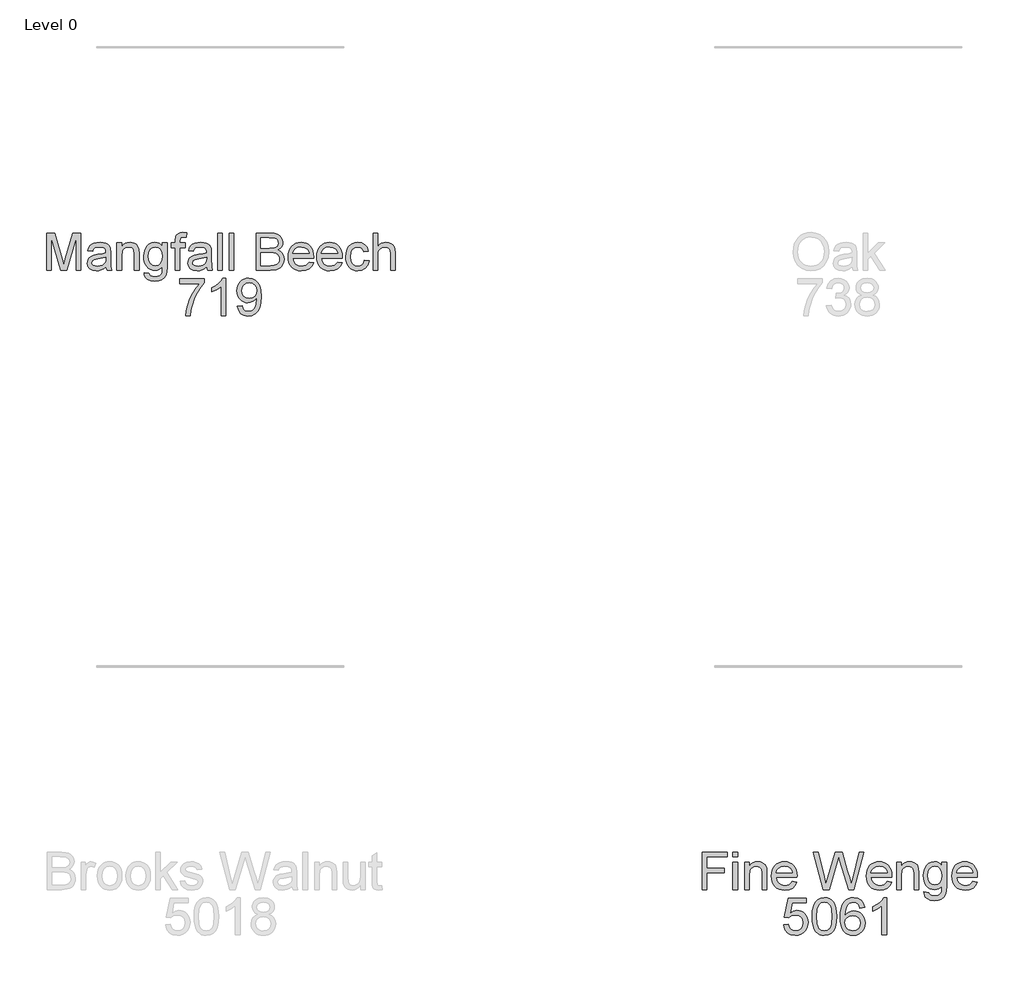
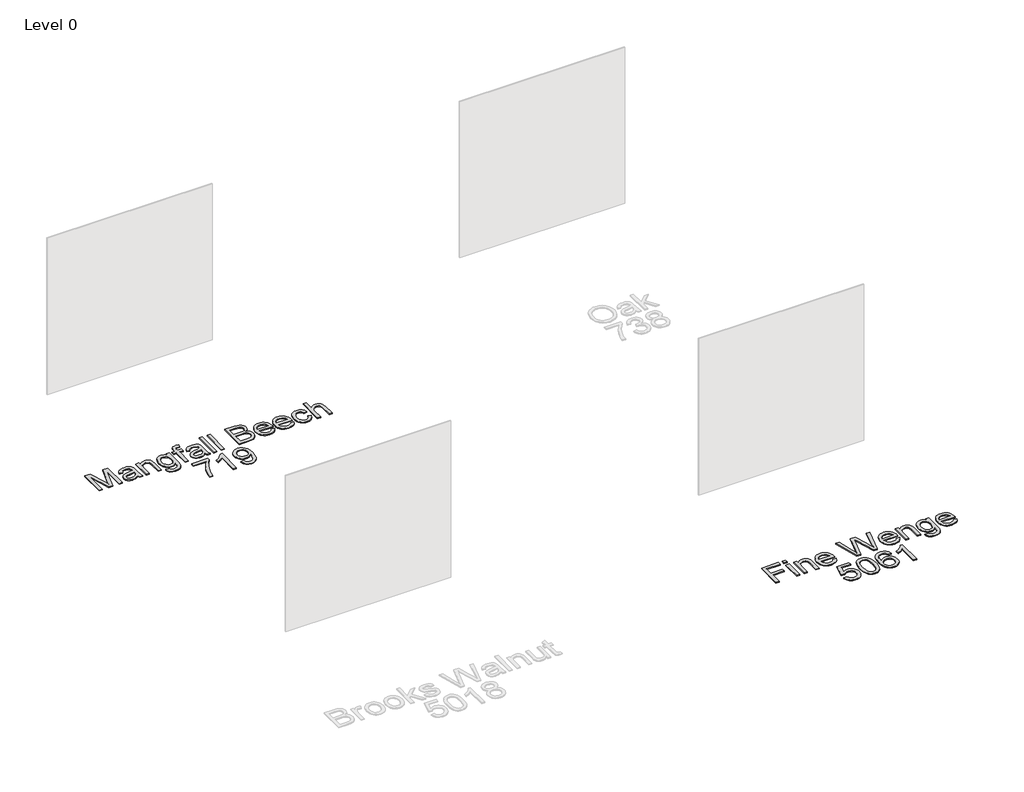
# One storey, part 11 of 16: 2 proxies.
"""IFC4 building model written with IfcOpenShell, lengths in millimetres."""

from ifc_helpers import new_model, si_unit, origin, origin_with_axes, place, context, project, spatial, polyline, outline, extrude, element, save

model = new_model("IFC4")

# Units and contexts
model_context = context("Model", 3, world=origin())
ifc_project = project(units=[si_unit("LENGTHUNIT", "METRE", prefix="MILLI")], contexts=[model_context])

# Site, building, storey
site = spatial("IfcSite", under=ifc_project)
building = spatial("IfcBuilding", under=site)
storey = spatial("IfcBuildingStorey", under=building, Name="Level 0", Elevation=0.0)

# Proxies
placement = place(None, origin())
element("IfcBuildingElementProxy", 1, Name="300mm Arial", ObjectType="300mm Arial", at=placement, inside=storey, context=model_context, shape_type="SweptSolid", body=[
    extrude(outline(polyline([(-856.2615835, -17002.860494), (-856.2615835, -16701.4915635), (-791.4407759, -16701.4915635), (-729.7837535, -16913.9066275), (-717.3493421, -16958.2731962), (-703.8848611, -16910.2278076), (-643.2579083, -16701.4915635), (-578.4371007, -16701.4915635), (-578.4371007, -17002.860494), (-616.108217, -17002.860494), (-616.108217, -16739.1626798), (-691.8183316, -17002.860494), (-742.8803526, -17002.860494), (-818.5904672, -16739.1626798), (-818.5904672, -17002.860494), (-856.2615835, -17002.860494)])), origin_with_axes(), (0.0, 0.0, 1.0), 10.0),
    extrude(outline(polyline([(-375.9548506, -16974.6071568), (-393.9534772, -16990.0398064), (-412.4855327, -17000.1381672), (-431.9740814, -17005.7115794), (-452.8421876, -17007.5693835), (-484.3236893, -17003.0996173), (-507.5462403, -16989.6903186), (-521.8660469, -16969.3280501), (-526.6393158, -16943.9993748), (-524.836694, -16928.3827841), (-519.4288287, -16914.2009331), (-511.0871045, -16902.0608273), (-500.4829059, -16892.5694718), (-474.1057669, -16880.2086368), (-441.5114221, -16874.5432541), (-402.9941772, -16868.5835657), (-376.1755798, -16861.5938078), (-375.9548506, -16853.2060983), (-378.5484186, -16836.3938912), (-386.3291228, -16825.3942195), (-403.7299412, -16817.2272392), (-427.9733647, -16814.5049125), (-450.4141664, -16816.3167313), (-466.0859394, -16821.7521878), (-476.7729114, -16831.8045633), (-484.25931, -16847.4671392), (-521.9304263, -16842.7582497), (-515.3913238, -16822.156858), (-505.6332539, -16805.9700502), (-491.7457086, -16793.590821), (-472.8181799, -16784.4121652), (-449.6692054, -16778.7283884), (-423.1173224, -16776.8337961), (-397.6506912, -16778.5076592), (-377.4631668, -16783.5292485), (-362.2420492, -16791.0800264), (-351.6746389, -16800.3414556), (-344.6664869, -16811.7917827), (-340.1231442, -16825.9092543), (-338.2837343, -16858.8714811), (-338.2837343, -16905.7396473), (-336.3707479, -16971.1858542), (-328.8659552, -17002.860494), (-366.5370715, -17002.860494), (-375.9548506, -16974.6071568)]), holes=[polyline([(-375.9548506, -16899.2649241), (-436.7289562, -16910.8164188), (-469.13936, -16916.9232599), (-483.8178516, -16926.8560738), (-488.9681995, -16941.3506244), (-486.1630993, -16952.5526311), (-477.7477986, -16961.7312869), (-463.9062386, -16967.8565221), (-444.8223601, -16969.8982672), (-424.5888503, -16967.64499), (-406.7097854, -16960.8851583), (-392.2152348, -16950.9247533), (-382.1352681, -16939.069756), (-377.6655019, -16926.8560738), (-376.1755798, -16909.933502), (-375.9548506, -16899.2649241)])]), origin_with_axes(), (0.0, 0.0, 1.0), 10.0),
    extrude(outline(polyline([(-286.4859493, -17002.860494), (-286.4859493, -16781.5426857), (-248.814833, -16781.5426857), (-248.814833, -16812.4447733), (-235.7274311, -16796.8649708), (-220.0096728, -16785.7365404), (-201.6615583, -16779.0594822), (-180.6830875, -16776.8337961), (-162.1142438, -16778.6272209), (-145.1088986, -16784.0074951), (-130.9270477, -16792.303234), (-120.8286869, -16802.8430532), (-109.5347097, -16830.5445674), (-107.5481469, -16866.964885), (-107.5481469, -17002.860494), (-145.2192632, -17002.860494), (-145.2192632, -16872.0416565), (-149.5602707, -16838.7115477), (-155.5659443, -16828.7879309), (-164.9009499, -16821.0900002), (-176.8663118, -16816.1511844), (-190.7630542, -16814.5049125), (-212.8267769, -16818.2021265), (-231.6347439, -16829.2937687), (-239.1510329, -16838.3482643), (-244.5198107, -16850.7228949), (-248.814833, -16885.4325611), (-248.814833, -17002.860494), (-286.4859493, -17002.860494)])), origin_with_axes(), (0.0, 0.0, 1.0), 10.0),
    extrude(outline(polyline([(-65.1681411, -17021.6960521), (-27.4970247, -17026.4049417), (-23.3399582, -17038.1771655), (-15.2833425, -17046.2705694), (0.5539774, -17052.5613515), (21.2841278, -17054.6582789), (43.3938357, -17052.28544), (59.8381609, -17045.1669234), (71.2425028, -17033.7625816), (78.2322607, -17018.532267), (80.8074346, -16974.6071568), (68.2718556, -16986.9679918), (54.2831428, -16995.7971597), (38.841296, -17001.0946604), (21.9463154, -17002.860494), (1.2920406, -17000.8049533), (-16.8928262, -16994.6383314), (-32.6082852, -16984.3606281), (-45.8543363, -16969.9718436), (-56.3642651, -16952.708981), (-63.871357, -16933.8090435), (-68.3756122, -16913.2720311), (-69.8770306, -16891.0979438), (-67.182295, -16860.6832999), (-59.0980881, -16832.7150712), (-45.9095186, -16809.0142737), (-27.9016949, -16791.4019232), (-5.6908195, -16780.4758279), (20.1069054, -16776.8337961), (37.7238545, -16778.8939353), (53.7129257, -16785.0743528), (68.0741191, -16795.3750487), (80.8074346, -16809.7960229), (80.8074346, -16781.5426857), (118.4785509, -16781.5426857), (118.4785509, -16972.620594), (115.903377, -17016.7388422), (108.1778551, -17045.7923228), (94.8697239, -17065.0601423), (75.5467221, -17079.8214074), (50.631914, -17089.2023982), (20.5483638, -17092.3293952), (-14.5015933, -17087.9240083), (-42.10194, -17074.7078476), (-52.4969056, -17064.7865301), (-59.806261, -17052.644125), (-64.0300061, -17038.2806323), (-65.1681411, -17021.6960521)]), holes=[polyline([(-32.2059143, -16888.5227699), (-28.1868035, -16923.0760863), (-16.1294711, -16946.8320661), (1.9979142, -16960.6000498), (24.2271838, -16965.1893777), (46.2909064, -16960.6276409), (64.5102622, -16946.9424307), (76.7331415, -16923.4899535), (80.8074346, -16889.6264159), (76.6135799, -16856.9676917), (64.0320157, -16833.4508352), (45.5459454, -16819.2413931), (23.6385726, -16814.5049125), (2.1266729, -16819.1678167), (-15.9087419, -16833.1565296), (-28.1316212, -16856.3238983), (-32.2059143, -16888.5227699)])]), origin_with_axes(), (0.0, 0.0, 1.0), 10.0),
    extrude(outline(polyline([(184.4030045, -17002.860494), (184.4030045, -16819.213802), (151.4407777, -16819.213802), (151.4407777, -16781.5426857), (184.4030045, -16781.5426857), (184.4030045, -16759.2490368), (188.37613, -16727.8319144), (195.9544991, -16715.3055325), (207.6531466, -16705.3911127), (224.0238954, -16698.9347837), (245.6185685, -16696.782674), (279.9787468, -16700.9029523), (274.4605169, -16736.2196239), (252.7554792, -16734.4537903), (238.4356725, -16736.0172888), (229.0270905, -16740.7077842), (223.8123632, -16749.6657108), (222.0741208, -16764.0315027), (222.0741208, -16781.5426857), (264.4541266, -16781.5426857), (264.4541266, -16819.213802), (222.0741208, -16819.213802), (222.0741208, -17002.860494), (184.4030045, -17002.860494)])), origin_with_axes(), (0.0, 0.0, 1.0), 10.0),
    extrude(outline(polyline([(438.6830395, -16974.6071568), (420.6844129, -16990.0398064), (402.1523574, -17000.1381672), (382.6638087, -17005.7115794), (361.7957026, -17007.5693835), (330.3142008, -17003.0996173), (307.0916499, -16989.6903186), (292.7718432, -16969.3280501), (287.9985743, -16943.9993748), (289.8011961, -16928.3827841), (295.2090614, -16914.2009331), (303.5507857, -16902.0608273), (314.1549842, -16892.5694718), (340.5321232, -16880.2086368), (373.126468, -16874.5432541), (411.6437129, -16868.5835657), (438.4623103, -16861.5938078), (438.6830395, -16853.2060983), (436.0894715, -16836.3938912), (428.3087673, -16825.3942195), (410.9079489, -16817.2272392), (386.6645254, -16814.5049125), (364.2237237, -16816.3167313), (348.5519507, -16821.7521878), (337.8649788, -16831.8045633), (330.3785802, -16847.4671392), (292.7074639, -16842.7582497), (299.2465663, -16822.156858), (309.0046362, -16805.9700502), (322.8921816, -16793.590821), (341.8197102, -16784.4121652), (364.9686848, -16778.7283884), (391.5205678, -16776.8337961), (416.9871989, -16778.5076592), (437.1747234, -16783.5292485), (452.3958409, -16791.0800264), (462.9632512, -16800.3414556), (469.9714032, -16811.7917827), (474.5147459, -16825.9092543), (476.3541558, -16858.8714811), (476.3541558, -16905.7396473), (478.2671422, -16971.1858542), (485.7719349, -17002.860494), (448.1008186, -17002.860494), (438.6830395, -16974.6071568)]), holes=[polyline([(438.6830395, -16899.2649241), (377.9089339, -16910.8164188), (345.4985302, -16916.9232599), (330.8200386, -16926.8560738), (325.6696906, -16941.3506244), (328.4747908, -16952.5526311), (336.8900915, -16961.7312869), (350.7316515, -16967.8565221), (369.81553, -16969.8982672), (390.0490398, -16967.64499), (407.9281047, -16960.8851583), (422.4226554, -16950.9247533), (432.502622, -16939.069756), (436.9723883, -16926.8560738), (438.4623103, -16909.933502), (438.6830395, -16899.2649241)])]), origin_with_axes(), (0.0, 0.0, 1.0), 10.0),
    extrude(outline(polyline([(528.1519408, -17002.860494), (528.1519408, -16701.4915635), (565.8230571, -16701.4915635), (565.8230571, -17002.860494), (528.1519408, -17002.860494)])), origin_with_axes(), (0.0, 0.0, 1.0), 10.0),
    extrude(outline(polyline([(622.3297315, -17002.860494), (622.3297315, -16701.4915635), (660.0008478, -16701.4915635), (660.0008478, -17002.860494), (622.3297315, -17002.860494)])), origin_with_axes(), (0.0, 0.0, 1.0), 10.0),
    extrude(outline(polyline([(838.9386503, -17002.860494), (838.9386503, -16701.4915635), (953.938562, -16701.4915635), (985.5672165, -16703.7080526), (1010.2612954, -16710.3575196), (1029.1888241, -16721.6055116), (1043.5178278, -16737.6175755), (1052.5401337, -16756.4531336), (1055.5475691, -16776.1716086), (1053.0183803, -16794.317388), (1045.4308142, -16811.3779155), (1032.7296883, -16826.3047274), (1014.8598204, -16838.0493601), (1036.2061732, -16849.1961846), (1051.9791137, -16866.1555446), (1061.7187895, -16887.8054), (1064.9653481, -16913.0237108), (1062.7488591, -16934.0389697), (1056.099392, -16953.5275184), (1046.1757752, -16970.1006023), (1034.1368369, -16982.3694669), (1019.393966, -16991.253817), (1001.3585512, -16997.6733578), (953.0556452, -17002.860494), (838.9386503, -17002.860494)]), holes=[polyline([(876.6097666, -16823.9226915), (945.4036997, -16823.9226915), (985.5764136, -16820.68533), (999.6387028, -16815.1027207), (1009.7462607, -16806.7426024), (1015.8439047, -16795.7337336), (1017.8764527, -16782.2048733), (1015.9818605, -16769.071486), (1010.2980836, -16757.630356), (1001.0826397, -16748.7000206), (988.5930459, -16743.0990172), (940.1797754, -16739.1626798), (876.6097666, -16739.1626798), (876.6097666, -16823.9226915)]), polyline([(876.6097666, -16965.1893777), (953.8649856, -16965.1893777), (981.8240172, -16963.7178497), (1005.4788295, -16955.5140812), (1021.1506025, -16938.7754504), (1025.7583245, -16926.9480443), (1027.2942318, -16913.3915928), (1025.49161, -16897.6462434), (1020.0837447, -16884.1081859), (1010.6383745, -16873.5223815), (996.723238, -16866.6337912), (977.0139601, -16862.8538037), (950.1861656, -16861.5938078), (876.6097666, -16861.5938078), (876.6097666, -16965.1893777)])]), origin_with_axes(), (0.0, 0.0, 1.0), 10.0),
    extrude(outline(polyline([(1267.0061399, -16936.9360404), (1303.9414922, -16941.64493), (1290.633361, -16969.4752029), (1269.3973729, -16990.2789297), (1240.7117743, -17003.2467701), (1205.0548119, -17007.5693835), (1181.6805096, -17005.7046817), (1160.8537902, -17000.1105761), (1142.5746535, -16990.7870668), (1126.8430997, -16977.7341537), (1114.1925576, -16961.3151204), (1105.1564561, -16941.8932503), (1099.7347952, -16919.4685435), (1097.9275749, -16894.0409998), (1099.7531893, -16867.7512327), (1105.2300325, -16844.5792656), (1114.3581045, -16824.5250983), (1127.1374053, -16807.5887309), (1142.8275724, -16794.133447), (1160.6882433, -16784.5225298), (1180.7194179, -16778.7559796), (1202.9210963, -16776.8337961), (1224.4077041, -16778.751381), (1243.8387712, -16784.5041357), (1261.2142977, -16794.0920602), (1276.5342836, -16807.5151545), (1289.0399721, -16824.4147337), (1297.9726068, -16844.4321128), (1303.3321876, -16867.5672917), (1305.1187146, -16893.8202706), (1304.8979854, -16903.9738137), (1135.5986912, -16903.9738137), (1142.1193996, -16932.1719686), (1157.2669407, -16952.902119), (1179.1283283, -16965.6492302), (1205.7905759, -16969.8982672), (1225.8401446, -16967.9300985), (1242.7259282, -16962.0255925), (1256.4479266, -16951.8168672), (1267.0061399, -16936.9360404)]), holes=[polyline([(1135.5986912, -16866.3026974), (1267.4475983, -16866.3026974), (1262.3524326, -16846.4002814), (1252.3644365, -16832.1632482), (1230.4018814, -16818.9194964), (1202.7739435, -16814.5049125), (1177.3808888, -16818.0273826), (1156.3840239, -16828.5947929), (1141.7883058, -16845.0667092), (1135.5986912, -16866.3026974)])]), origin_with_axes(), (0.0, 0.0, 1.0), 10.0),
    extrude(outline(polyline([(1497.7417273, -16936.9360404), (1534.6770796, -16941.64493), (1521.3689484, -16969.4752029), (1500.1329602, -16990.2789297), (1471.4473617, -17003.2467701), (1435.7903993, -17007.5693835), (1412.416097, -17005.7046817), (1391.5893776, -17000.1105761), (1373.3102409, -16990.7870668), (1357.5786871, -16977.7341537), (1344.928145, -16961.3151204), (1335.8920435, -16941.8932503), (1330.4703826, -16919.4685435), (1328.6631623, -16894.0409998), (1330.4887767, -16867.7512327), (1335.9656199, -16844.5792656), (1345.0936919, -16824.5250983), (1357.8729927, -16807.5887309), (1373.5631598, -16794.133447), (1391.4238307, -16784.5225298), (1411.4550053, -16778.7559796), (1433.6566837, -16776.8337961), (1455.1432915, -16778.751381), (1474.5743586, -16784.5041357), (1491.9498851, -16794.0920602), (1507.2698709, -16807.5151545), (1519.7755595, -16824.4147337), (1528.7081942, -16844.4321128), (1534.067775, -16867.5672917), (1535.854302, -16893.8202706), (1535.6335728, -16903.9738137), (1366.3342786, -16903.9738137), (1372.8549869, -16932.1719686), (1388.0025281, -16952.902119), (1409.8639157, -16965.6492302), (1436.5261633, -16969.8982672), (1456.575732, -16967.9300985), (1473.4615156, -16962.0255925), (1487.183514, -16951.8168672), (1497.7417273, -16936.9360404)]), holes=[polyline([(1366.3342786, -16866.3026974), (1498.1831857, -16866.3026974), (1493.08802, -16846.4002814), (1483.1000239, -16832.1632482), (1461.1374687, -16818.9194964), (1433.5095309, -16814.5049125), (1408.1164762, -16818.0273826), (1387.1196113, -16828.5947929), (1372.5238932, -16845.0667092), (1366.3342786, -16866.3026974)])]), origin_with_axes(), (0.0, 0.0, 1.0), 10.0),
    extrude(outline(polyline([(1714.7921044, -16922.8093718), (1752.4632207, -16927.5182614), (1741.9601898, -16961.0231141), (1722.2233207, -16986.3425924), (1695.1104177, -17002.2626857), (1662.4792847, -17007.5693835), (1641.3513619, -17005.7184772), (1622.4077384, -17000.1657584), (1605.6484142, -16990.9112269), (1591.0733894, -16977.9548829), (1579.2758737, -16961.5404481), (1570.8490767, -16941.9116444), (1565.7929986, -16919.0684718), (1564.1076392, -16893.0109302), (1566.9863158, -16859.4876834), (1575.6223456, -16830.4342028), (1590.1536844, -16806.9725286), (1610.718288, -16790.2247008), (1635.3203964, -16780.1815223), (1661.9642499, -16776.8337961), (1693.7952395, -16781.4323211), (1719.2434766, -16795.2278959), (1737.4996206, -16817.4847566), (1747.7543312, -16847.4671392), (1710.0832149, -16852.1760288), (1703.2498068, -16835.7409006), (1692.6088201, -16823.9594797), (1678.7488659, -16816.8685543), (1662.2585555, -16814.5049125), (1637.9139645, -16819.1586197), (1618.5909627, -16833.1197414), (1605.9818073, -16857.1424357), (1601.7787555, -16891.9808606), (1605.8898368, -16927.2883351), (1618.2230807, -16951.3938029), (1637.1965946, -16965.2721511), (1661.2284859, -16969.8982672), (1680.7354287, -16967.0103936), (1696.7290984, -16958.3467726), (1708.3633665, -16943.6866751), (1714.7921044, -16922.8093718)])), origin_with_axes(), (0.0, 0.0, 1.0), 10.0),
    extrude(outline(polyline([(1785.4254475, -17002.860494), (1785.4254475, -16701.4915635), (1823.0965638, -16701.4915635), (1823.0965638, -16812.2976205), (1836.9335253, -16796.7821973), (1852.4719411, -16785.6997522), (1869.7118111, -16779.0502852), (1888.6531353, -16776.8337961), (1911.4066367, -16779.2526203), (1930.9595648, -16786.5090926), (1946.3554263, -16798.0329961), (1956.637728, -16813.2541137), (1962.4318695, -16834.1682051), (1964.3632499, -16862.7710302), (1964.3632499, -17002.860494), (1926.6921336, -17002.860494), (1926.6921336, -16866.6705794), (1923.6938954, -16843.0893435), (1914.6991806, -16826.9393239), (1900.20463, -16817.6135153), (1880.7068842, -16814.5049125), (1864.7867909, -16816.6018398), (1849.8415848, -16822.8926219), (1837.4623557, -16832.7702535), (1829.2401931, -16845.6277292), (1824.6324711, -16862.7158479), (1823.0965638, -16885.2854083), (1823.0965638, -17002.860494), (1785.4254475, -17002.860494)])), origin_with_axes(), (0.0, 0.0, 1.0), 10.0),
    extrude(outline(polyline([(222.0741208, -17109.7960229), (222.0741208, -17072.1249066), (419.8474814, -17072.1249066), (419.8474814, -17102.5855358), (391.6585235, -17138.2608923), (363.7454771, -17183.6299393), (339.1249746, -17234.5540045), (320.8136483, -17286.8944154), (311.8373276, -17326.0554538), (306.8341325, -17368.7849475), (269.1630162, -17368.7849475), (273.2373093, -17329.9550029), (284.1358134, -17283.8042066), (301.5642229, -17234.8850983), (325.2282322, -17187.7502177), (352.8561701, -17145.1402856), (382.1763651, -17109.7960229), (222.0741208, -17109.7960229)])), origin_with_axes(), (0.0, 0.0, 1.0), 10.0),
    extrude(outline(polyline([(594.0763943, -17368.7849475), (556.405278, -17368.7849475), (556.405278, -17133.9290818), (520.7207245, -17159.3497277), (481.0630454, -17178.3692268), (481.0630454, -17142.7582497), (510.6499548, -17126.6634124), (536.2821329, -17107.5151545), (556.4880514, -17087.1528861), (569.7961826, -17067.4160171), (594.0763943, -17067.4160171), (594.0763943, -17368.7849475)])), origin_with_axes(), (0.0, 0.0, 1.0), 10.0),
    extrude(outline(polyline([(688.2541851, -17293.4427149), (725.9253014, -17288.7338254), (732.3632363, -17310.1169663), (742.8478732, -17324.6758963), (757.1216946, -17333.0360146), (774.9271831, -17335.8227207), (790.9024588, -17334.029296), (805.4246005, -17328.6490218), (817.49113, -17320.2705094), (826.0995687, -17309.4823699), (838.4236155, -17276.7408723), (843.868269, -17233.0364913), (843.6475398, -17225.6788514), (830.5969261, -17241.6081418), (813.5180044, -17254.2264942), (793.6431796, -17262.4486568), (772.2048564, -17265.1893777), (754.3096966, -17263.5155146), (737.8538751, -17258.4939254), (722.8373919, -17250.12461), (709.260247, -17238.4075684), (698.0099557, -17223.9544045), (689.9740334, -17207.3767221), (685.15248, -17188.6745212), (683.5452955, -17167.8478018), (685.2306549, -17146.326705), (690.2867331, -17127.0129003), (698.71353, -17109.9063875), (710.5110458, -17095.0071667), (724.8469473, -17082.9360387), (740.8889015, -17074.3138045), (758.6369085, -17069.1404639), (778.0909683, -17067.4160171), (806.1879557, -17071.3523544), (831.7649514, -17083.1613665), (853.1572894, -17102.254442), (868.7003037, -17128.0429699), (878.164068, -17163.6907352), (881.3186561, -17212.3615232), (878.1732651, -17263.96617), (868.7370919, -17303.8537754), (853.0929101, -17333.8269609), (831.323493, -17355.6883485), (804.3669398, -17369.0424649), (773.1613496, -17373.4938371), (740.9532809, -17368.2423216), (715.2567235, -17352.4877751), (697.2856881, -17327.2234791), (688.2541851, -17293.4427149)]), holes=[polyline([(843.6475398, -17166.964885), (839.5824438, -17141.4338745), (827.3871556, -17121.788976), (808.459627, -17109.262594), (784.1978094, -17105.0871334), (759.0346809, -17109.5844908), (738.8747476, -17123.0765629), (725.6309958, -17143.7239399), (721.2164118, -17169.6872117), (725.3918725, -17192.964945), (737.9182544, -17211.4418182), (757.5815471, -17223.4991506), (783.1677398, -17227.5182614), (807.2364194, -17223.4991506), (826.6146035, -17211.4418182), (839.3893057, -17192.2843633), (843.6475398, -17166.964885)])]), origin_with_axes(), (0.0, 0.0, 1.0), 10.0),
])
element("IfcBuildingElementProxy", 2, Name="300mm Arial", ObjectType="300mm Arial", at=placement, inside=storey, context=model_context, shape_type="SweptSolid", body=[
    extrude(outline(polyline([(4447.4617917, -22012.860494), (4447.4617917, -21711.4915635), (4649.9440419, -21711.4915635), (4649.9440419, -21749.1626798), (4485.132908, -21749.1626798), (4485.132908, -21838.6315811), (4626.3995942, -21838.6315811), (4626.3995942, -21876.3026974), (4485.132908, -21876.3026974), (4485.132908, -22012.860494), (4447.4617917, -22012.860494)])), origin_with_axes(), (0.0, 0.0, 1.0), 10.0),
    extrude(outline(polyline([(4697.0329373, -22012.860494), (4697.0329373, -21791.5426857), (4734.7040536, -21791.5426857), (4734.7040536, -22012.860494), (4697.0329373, -22012.860494)])), origin_with_axes(), (0.0, 0.0, 1.0), 10.0),
    extrude(outline(polyline([(4697.0329373, -21749.1626798), (4697.0329373, -21711.4915635), (4734.7040536, -21711.4915635), (4734.7040536, -21749.1626798), (4697.0329373, -21749.1626798)])), origin_with_axes(), (0.0, 0.0, 1.0), 10.0),
    extrude(outline(polyline([(4791.210728, -22012.860494), (4791.210728, -21791.5426857), (4828.8818443, -21791.5426857), (4828.8818443, -21822.4447733), (4841.9692463, -21806.8649708), (4857.6870046, -21795.7365404), (4876.0351191, -21789.0594822), (4897.0135898, -21786.8337961), (4915.5824336, -21788.6272209), (4932.5877788, -21794.0074951), (4946.7696297, -21802.303234), (4956.8679905, -21812.8430532), (4968.1619677, -21840.5445674), (4970.1485305, -21876.964885), (4970.1485305, -22012.860494), (4932.4774142, -22012.860494), (4932.4774142, -21882.0416565), (4928.1364066, -21848.7115477), (4922.1307331, -21838.7879309), (4912.7957274, -21831.0900002), (4900.8303655, -21826.1511844), (4886.9336232, -21824.5049125), (4864.8699005, -21828.2021265), (4846.0619335, -21839.2937687), (4838.5456445, -21848.3482643), (4833.1768666, -21860.7228949), (4828.8818443, -21895.4325611), (4828.8818443, -22012.860494), (4791.210728, -22012.860494)])), origin_with_axes(), (0.0, 0.0, 1.0), 10.0),
    extrude(outline(polyline([(5176.8982118, -21946.9360404), (5213.8335641, -21951.64493), (5200.5254329, -21979.4752029), (5179.2894447, -22000.2789297), (5150.6038462, -22013.2467701), (5114.9468838, -22017.5693835), (5091.5725815, -22015.7046817), (5070.7458621, -22010.1105761), (5052.4667254, -22000.7870668), (5036.7351716, -21987.7341537), (5024.0846295, -21971.3151204), (5015.048528, -21951.8932503), (5009.6268671, -21929.4685435), (5007.8196468, -21904.0409998), (5009.6452612, -21877.7512327), (5015.1221044, -21854.5792656), (5024.2501764, -21834.5250983), (5037.0294772, -21817.5887309), (5052.7196443, -21804.133447), (5070.5803152, -21794.5225298), (5090.6114898, -21788.7559796), (5112.8131682, -21786.8337961), (5134.299776, -21788.751381), (5153.7308431, -21794.5041357), (5171.1063696, -21804.0920602), (5186.4263555, -21817.5151545), (5198.932044, -21834.4147337), (5207.8646787, -21854.4321128), (5213.2242595, -21877.5672917), (5215.0107865, -21903.8202706), (5214.7900573, -21913.9738137), (5045.4907631, -21913.9738137), (5052.0114715, -21942.1719686), (5067.1590126, -21962.902119), (5089.0204002, -21975.6492302), (5115.6826478, -21979.8982672), (5135.7322165, -21977.9300985), (5152.6180001, -21972.0255925), (5166.3399985, -21961.8168672), (5176.8982118, -21946.9360404)]), holes=[polyline([(5045.4907631, -21876.3026974), (5177.3396702, -21876.3026974), (5172.2445045, -21856.4002814), (5162.2565084, -21842.1632482), (5140.2939533, -21828.9194964), (5112.6660154, -21824.5049125), (5087.2729607, -21828.0273826), (5066.2760958, -21838.5947929), (5051.6803777, -21855.0667092), (5045.4907631, -21876.3026974)])]), origin_with_axes(), (0.0, 0.0, 1.0), 10.0),
    extrude(outline(polyline([(5429.0445313, -22012.860494), (5346.8596935, -21711.4915635), (5385.7080322, -21711.4915635), (5433.3855388, -21909.5592297), (5448.1008186, -21970.7012173), (5463.846168, -21916.622564), (5523.590204, -21711.4915635), (5579.5818437, -21711.4915635), (5622.9919191, -21860.189466), (5641.588354, -21915.3717653), (5655.2919583, -21970.7012173), (5669.5657797, -21911.3250633), (5717.6847447, -21711.4915635), (5756.5330834, -21711.4915635), (5674.2746693, -22012.860494), (5634.028379, -22012.860494), (5561.7763551, -21780.359073), (5551.6963885, -21747.9118811), (5540.365623, -21786.9809489), (5474.5147459, -22012.860494), (5429.0445313, -22012.860494)])), origin_with_axes(), (0.0, 0.0, 1.0), 10.0),
    extrude(outline(polyline([(5944.4472065, -21946.9360404), (5981.3825588, -21951.64493), (5968.0744277, -21979.4752029), (5946.8384395, -22000.2789297), (5918.1528409, -22013.2467701), (5882.4958785, -22017.5693835), (5859.1215763, -22015.7046817), (5838.2948568, -22010.1105761), (5820.0157202, -22000.7870668), (5804.2841664, -21987.7341537), (5791.6336242, -21971.3151204), (5782.5975227, -21951.8932503), (5777.1758618, -21929.4685435), (5775.3686415, -21904.0409998), (5777.1942559, -21877.7512327), (5782.6710991, -21854.5792656), (5791.7991711, -21834.5250983), (5804.5784719, -21817.5887309), (5820.268639, -21804.133447), (5838.1293099, -21794.5225298), (5858.1604845, -21788.7559796), (5880.362163, -21786.8337961), (5901.8487707, -21788.751381), (5921.2798379, -21794.5041357), (5938.6553644, -21804.0920602), (5953.9753502, -21817.5151545), (5966.4810388, -21834.4147337), (5975.4136735, -21854.4321128), (5980.7732543, -21877.5672917), (5982.5597812, -21903.8202706), (5982.339052, -21913.9738137), (5813.0397578, -21913.9738137), (5819.5604662, -21942.1719686), (5834.7080074, -21962.902119), (5856.5693949, -21975.6492302), (5883.2316425, -21979.8982672), (5903.2812113, -21977.9300985), (5920.1669948, -21972.0255925), (5933.8889933, -21961.8168672), (5944.4472065, -21946.9360404)]), holes=[polyline([(5813.0397578, -21876.3026974), (5944.8886649, -21876.3026974), (5939.7934993, -21856.4002814), (5929.8055031, -21842.1632482), (5907.842948, -21828.9194964), (5880.2150102, -21824.5049125), (5854.8219554, -21828.0273826), (5833.8250906, -21838.5947929), (5819.2293724, -21855.0667092), (5813.0397578, -21876.3026974)])]), origin_with_axes(), (0.0, 0.0, 1.0), 10.0),
    extrude(outline(polyline([(6020.2308975, -22012.860494), (6020.2308975, -21791.5426857), (6057.9020138, -21791.5426857), (6057.9020138, -21822.4447733), (6070.9894158, -21806.8649708), (6086.707174, -21795.7365404), (6105.0552886, -21789.0594822), (6126.0337593, -21786.8337961), (6144.602603, -21788.6272209), (6161.6079483, -21794.0074951), (6175.7897992, -21802.303234), (6185.8881599, -21812.8430532), (6197.1821372, -21840.5445674), (6199.1687, -21876.964885), (6199.1687, -22012.860494), (6161.4975837, -22012.860494), (6161.4975837, -21882.0416565), (6157.1565761, -21848.7115477), (6151.1509026, -21838.7879309), (6141.8158969, -21831.0900002), (6129.850535, -21826.1511844), (6115.9537927, -21824.5049125), (6093.89007, -21828.2021265), (6075.082103, -21839.2937687), (6067.565814, -21848.3482643), (6062.1970361, -21860.7228949), (6057.9020138, -21895.4325611), (6057.9020138, -22012.860494), (6020.2308975, -22012.860494)])), origin_with_axes(), (0.0, 0.0, 1.0), 10.0),
    extrude(outline(polyline([(6241.5487058, -22031.6960521), (6279.2198221, -22036.4049417), (6283.3768887, -22048.1771655), (6291.4335044, -22056.2705694), (6307.2708243, -22062.5613515), (6328.0009747, -22064.6582789), (6350.1106826, -22062.28544), (6366.5550078, -22055.1669234), (6377.9593496, -22043.7625816), (6384.9491075, -22028.532267), (6387.5242815, -21984.6071568), (6374.9887025, -21996.9679918), (6360.9999897, -22005.7971597), (6345.5581429, -22011.0946604), (6328.6631623, -22012.860494), (6308.0088875, -22010.8049533), (6289.8240206, -22004.6383314), (6274.1085617, -21994.3606281), (6260.8625106, -21979.9718436), (6250.3525818, -21962.708981), (6242.8454899, -21943.8090435), (6238.3412347, -21923.2720311), (6236.8398163, -21901.0979438), (6239.5345519, -21870.6832999), (6247.6187587, -21842.7150712), (6260.8073283, -21819.0142737), (6278.8151519, -21801.4019232), (6301.0260274, -21790.4758279), (6326.8237523, -21786.8337961), (6344.4407013, -21788.8939353), (6360.4297726, -21795.0743528), (6374.7909659, -21805.3750487), (6387.5242815, -21819.7960229), (6387.5242815, -21791.5426857), (6425.1953978, -21791.5426857), (6425.1953978, -21982.620594), (6422.6202238, -22026.7388422), (6414.8947019, -22055.7923228), (6401.5865708, -22075.0601423), (6382.263569, -22089.8214074), (6357.3487608, -22099.2023982), (6327.2652107, -22102.3293952), (6292.2152536, -22097.9240083), (6264.6149069, -22084.7078476), (6254.2199413, -22074.7865301), (6246.9105859, -22062.644125), (6242.6868407, -22048.2806323), (6241.5487058, -22031.6960521)]), holes=[polyline([(6274.5109326, -21898.5227699), (6278.5300434, -21933.0760863), (6290.5873758, -21956.8320661), (6308.7147611, -21970.6000498), (6330.9440306, -21975.1893777), (6353.0077533, -21970.6276409), (6371.2271091, -21956.9424307), (6383.4499884, -21933.4899535), (6387.5242815, -21899.6264159), (6383.3304268, -21866.9676917), (6370.7488625, -21843.4508352), (6352.2627923, -21829.2413931), (6330.3554195, -21824.5049125), (6308.8435198, -21829.1678167), (6290.808105, -21843.1565296), (6278.5852257, -21866.3238983), (6274.5109326, -21898.5227699)])]), origin_with_axes(), (0.0, 0.0, 1.0), 10.0),
    extrude(outline(polyline([(6636.6539686, -21946.9360404), (6673.589321, -21951.64493), (6660.2811898, -21979.4752029), (6639.0452016, -22000.2789297), (6610.359603, -22013.2467701), (6574.7026406, -22017.5693835), (6551.3283384, -22015.7046817), (6530.5016189, -22010.1105761), (6512.2224823, -22000.7870668), (6496.4909285, -21987.7341537), (6483.8403864, -21971.3151204), (6474.8042849, -21951.8932503), (6469.382624, -21929.4685435), (6467.5754037, -21904.0409998), (6469.4010181, -21877.7512327), (6474.8778613, -21854.5792656), (6484.0059333, -21834.5250983), (6496.7852341, -21817.5887309), (6512.4754012, -21804.133447), (6530.336072, -21794.5225298), (6550.3672467, -21788.7559796), (6572.5689251, -21786.8337961), (6594.0555329, -21788.751381), (6613.4866, -21794.5041357), (6630.8621265, -21804.0920602), (6646.1821123, -21817.5151545), (6658.6878009, -21834.4147337), (6667.6204356, -21854.4321128), (6672.9800164, -21877.5672917), (6674.7665433, -21903.8202706), (6674.5458141, -21913.9738137), (6505.24652, -21913.9738137), (6511.7672283, -21942.1719686), (6526.9147695, -21962.902119), (6548.776157, -21975.6492302), (6575.4384046, -21979.8982672), (6595.4879734, -21977.9300985), (6612.373757, -21972.0255925), (6626.0957554, -21961.8168672), (6636.6539686, -21946.9360404)]), holes=[polyline([(6505.24652, -21876.3026974), (6637.095427, -21876.3026974), (6632.0002614, -21856.4002814), (6622.0122652, -21842.1632482), (6600.0497101, -21828.9194964), (6572.4217723, -21824.5049125), (6547.0287176, -21828.0273826), (6526.0318527, -21838.5947929), (6511.4361345, -21855.0667092), (6505.24652, -21876.3026974)])]), origin_with_axes(), (0.0, 0.0, 1.0), 10.0),
    extrude(outline(polyline([(5106.7063271, -22298.7338254), (5144.3774434, -22294.0249358), (5151.2936249, -22316.6404815), (5163.3601544, -22332.8364863), (5180.5218494, -22342.5761621), (5202.7235278, -22345.8227207), (5229.7260663, -22341.3069693), (5249.959576, -22327.7597148), (5262.5963226, -22306.7444558), (5266.8085714, -22279.8246908), (5262.863037, -22254.4776213), (5251.0264338, -22235.0902402), (5231.2067913, -22222.7845875), (5203.312139, -22218.6827032), (5185.0376009, -22220.3197781), (5170.2395477, -22225.2310027), (5149.0863329, -22242.2271509), (5111.4152166, -22237.5182614), (5144.3774434, -22082.1249066), (5290.3530191, -22082.1249066), (5290.3530191, -22119.7960229), (5174.8380726, -22119.7960229), (5158.7248412, -22202.790201), (5185.6354092, -22186.4562404), (5213.8335641, -22181.0115869), (5232.1793793, -22182.6992456), (5249.030674, -22187.7622215), (5264.387448, -22196.2005148), (5278.2497014, -22208.0141254), (5289.7253204, -22222.4810848), (5297.9221911, -22238.8794248), (5302.8403136, -22257.2091452), (5304.4796877, -22277.470246), (5298.5751817, -22315.1413624), (5291.1945492, -22331.9351754), (5280.8616636, -22347.3678251), (5265.2082847, -22363.1729553), (5246.9429437, -22374.4623341), (5226.0656404, -22381.2359613), (5202.576375, -22383.4938371), (5165.5766434, -22377.6904986), (5149.8979726, -22370.4363255), (5136.1000985, -22360.2804832), (5124.619881, -22347.7288093), (5115.8941799, -22333.2871418), (5106.7063271, -22298.7338254)])), origin_with_axes(), (0.0, 0.0, 1.0), 10.0),
    extrude(outline(polyline([(5337.4419145, -22230.5285035), (5340.2102265, -22182.2899768), (5348.5151625, -22143.8187172), (5362.2739491, -22114.5261133), (5381.4038129, -22093.8235541), (5406.0427095, -22081.5179013), (5436.3285948, -22077.4160171), (5459.5419487, -22079.8440382), (5480.3272814, -22087.1281017), (5497.7097057, -22098.983099), (5510.7143342, -22115.1239216), (5520.5367835, -22135.4126136), (5528.37267, -22159.7112194), (5533.5046238, -22190.5673217), (5535.2152751, -22230.5285035), (5532.4745542, -22278.4911186), (5524.2523916, -22316.8704077), (5510.5763785, -22346.1906027), (5491.4741059, -22366.9759355), (5466.7800269, -22379.3643617), (5436.3285948, -22383.4938371), (5415.5800502, -22381.7004123), (5397.1859505, -22376.3201381), (5381.1462955, -22367.3530145), (5367.4610853, -22354.7990414), (5354.327698, -22332.1053209), (5344.9467072, -22303.828991), (5339.3181126, -22269.9700519), (5337.4419145, -22230.5285035)]), holes=[polyline([(5375.1130308, -22230.4549271), (5379.5276147, -22289.7115194), (5385.0458446, -22309.9795181), (5392.7713665, -22324.0073184), (5412.4898415, -22340.3688702), (5436.3285948, -22345.8227207), (5460.1673481, -22340.3504761), (5479.885823, -22323.933742), (5487.6113449, -22309.8829491), (5493.1295748, -22289.6195489), (5497.5441588, -22230.4549271), (5493.2767276, -22172.5319069), (5487.9424387, -22152.3305869), (5480.4744342, -22137.9693935), (5460.7927475, -22120.8076984), (5435.8871364, -22115.0871334), (5412.3059005, -22120.1271167), (5393.3599777, -22135.2470667), (5385.3769384, -22150.8820515), (5379.6747675, -22171.9616898), (5375.1130308, -22230.4549271)])]), origin_with_axes(), (0.0, 0.0, 1.0), 10.0),
    extrude(outline(polyline([(5761.2419729, -22157.4671392), (5723.5708566, -22162.1760288), (5717.5008037, -22143.5060175), (5709.2970352, -22130.7589064), (5692.2089165, -22119.0050766), (5671.5523425, -22115.0871334), (5654.0411595, -22117.3680017), (5637.5600461, -22124.2106069), (5623.4057864, -22138.622384), (5611.8450947, -22158.4604206), (5604.0367993, -22186.5206198), (5601.1397286, -22225.5988847), (5616.2504816, -22207.9681401), (5634.3594728, -22195.5429257), (5654.4550268, -22188.1760888), (5675.525468, -22185.7204764), (5693.6252622, -22187.3989381), (5710.3271048, -22192.4343229), (5725.6309958, -22200.8266309), (5739.5369352, -22212.5758621), (5751.0930284, -22226.9830407), (5759.3473806, -22243.349191), (5764.299992, -22261.6743129), (5765.9508625, -22281.9584064), (5762.8422596, -22308.9333537), (5753.516451, -22333.9401323), (5738.7459889, -22355.1485293), (5719.3034255, -22370.7283318), (5696.0716775, -22380.3024607), (5669.9336617, -22383.4938371), (5647.4767652, -22381.3785156), (5627.1949709, -22375.0325512), (5609.088279, -22364.4559438), (5593.1566893, -22349.6486935), (5580.1681556, -22329.9854009), (5570.8906316, -22304.8406665), (5565.3241171, -22274.2144904), (5563.4686123, -22238.1068726), (5565.5287515, -22197.6260575), (5571.709169, -22163.0773396), (5582.0098649, -22134.4607189), (5596.4308391, -22111.7761954), (5612.0612253, -22096.7436174), (5630.1840121, -22086.0060617), (5650.7991994, -22079.5635282), (5673.9067873, -22077.4160171), (5706.9609845, -22082.7319119), (5733.4300941, -22098.6795964), (5751.9713466, -22124.0082718), (5761.2419729, -22157.4671392)]), holes=[polyline([(5601.1397286, -22281.3697952), (5603.3194294, -22298.0624407), (5609.8585319, -22314.0009282), (5620.012075, -22327.7045325), (5633.0350976, -22337.6925287), (5648.7528558, -22343.7901727), (5666.9906058, -22345.8227207), (5691.8502316, -22341.6104719), (5711.3939626, -22328.9737254), (5724.0583003, -22309.1080976), (5728.2797461, -22283.2092052), (5724.1134826, -22258.3495793), (5711.6146918, -22239.3944595), (5691.739867, -22227.3923095), (5665.4455014, -22223.3915928), (5640.6226637, -22227.3923095), (5619.8649222, -22239.3944595), (5605.821027, -22257.8897269), (5601.1397286, -22281.3697952)])]), origin_with_axes(), (0.0, 0.0, 1.0), 10.0),
    extrude(outline(polyline([(5940.1797754, -22378.7849475), (5902.5086591, -22378.7849475), (5902.5086591, -22143.9290818), (5866.8241055, -22169.3497277), (5827.1664265, -22188.3692268), (5827.1664265, -22152.7582497), (5856.7533359, -22136.6634124), (5882.3855139, -22117.5151545), (5902.5914325, -22097.1528861), (5915.8995637, -22077.4160171), (5940.1797754, -22077.4160171), (5940.1797754, -22378.7849475)])), origin_with_axes(), (0.0, 0.0, 1.0), 10.0),
])

save(model, "model.ifc")
